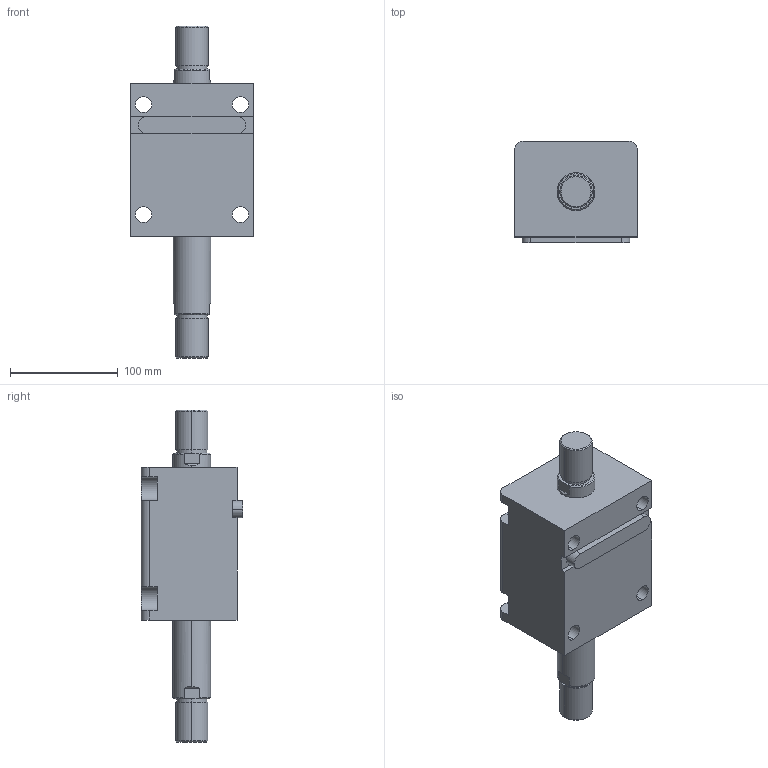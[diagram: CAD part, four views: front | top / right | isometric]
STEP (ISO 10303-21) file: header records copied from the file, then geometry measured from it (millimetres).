
FILE_DESCRIPTION (( 'STEP AP203' ), '1' );
FILE_NAME ('HTB-LW63-60W.STEP', '2019-10-09T08:27:35', ( '微软用户' ), ( '微软中国' ), 'SwSTEP 2.0', 'SolidWorks 2012', '' );
FILE_SCHEMA (( 'CONFIG_CONTROL_DESIGN' ));
Length unit declared in the file: millimetre
Products named in the file (4): HTB-LW63-60W; HTB-LA63-瑩; HTB-LW63-60W活塞杆; HTB-LW63-60掛极
Assembly tree (3 placements, depth 2):
  HTB-LW63-60W
    HTB-LW63-60掛极
    HTB-LW63-60W活塞杆
    HTB-LA63-瑩
Bounding box: 114 x 94.5 x 308 mm (x, y, z)
Volume: 1370700 mm3; surface area: 164480.4 mm2
Topology: 3 solids, 3 shells, 109 faces, 265 edges, 174 vertices
Faces by surface type: plane 48, cylinder 45, cone 12, torus 4
Entity records: 3679 total; most frequent: CARTESIAN_POINT 610, DIRECTION 593, ORIENTED_EDGE 530, EDGE_CURVE 265, AXIS2_PLACEMENT_3D 229, VERTEX_POINT 174, VECTOR 135, LINE 135
